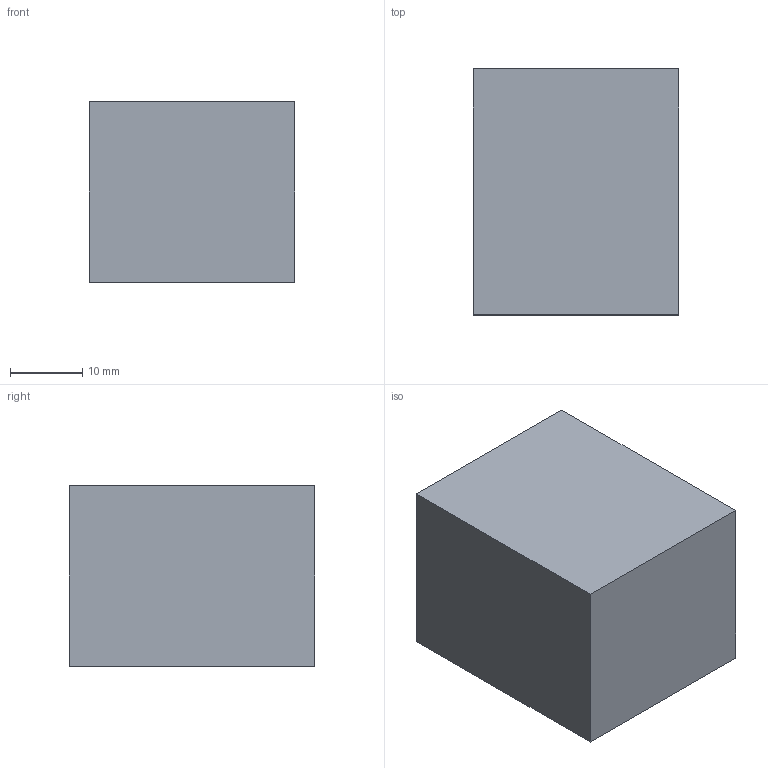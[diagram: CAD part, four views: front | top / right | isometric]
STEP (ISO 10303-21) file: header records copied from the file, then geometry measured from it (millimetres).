
FILE_DESCRIPTION(('Open CASCADE Model'),'2;1');
FILE_NAME('Open CASCADE Shape Model','2026-10-10T15:34:58',('Author'),( 'Open CASCADE'),'Open CASCADE STEP processor 7.9','Open CASCADE 7.9' ,'Unknown');
FILE_SCHEMA(('AUTOMOTIVE_DESIGN { 1 0 10303 214 1 1 1 1 }'));
Length unit declared in the file: millimetre
Products named in the file (1): Open CASCADE STEP translator 7.9 24
Bounding box: 28.4 x 34 x 25 mm (x, y, z)
Volume: 24140 mm3; surface area: 5051.2 mm2
Topology: 1 solids, 1 shells, 6 faces, 12 edges, 8 vertices
Faces by surface type: plane 6
Entity records: 322 total; most frequent: CARTESIAN_POINT 51, DIRECTION 50, LINE 36, VECTOR 36, ORIENTED_EDGE 24, PCURVE 24, DEFINITIONAL_REPRESENTATION 24, EDGE_CURVE 12
